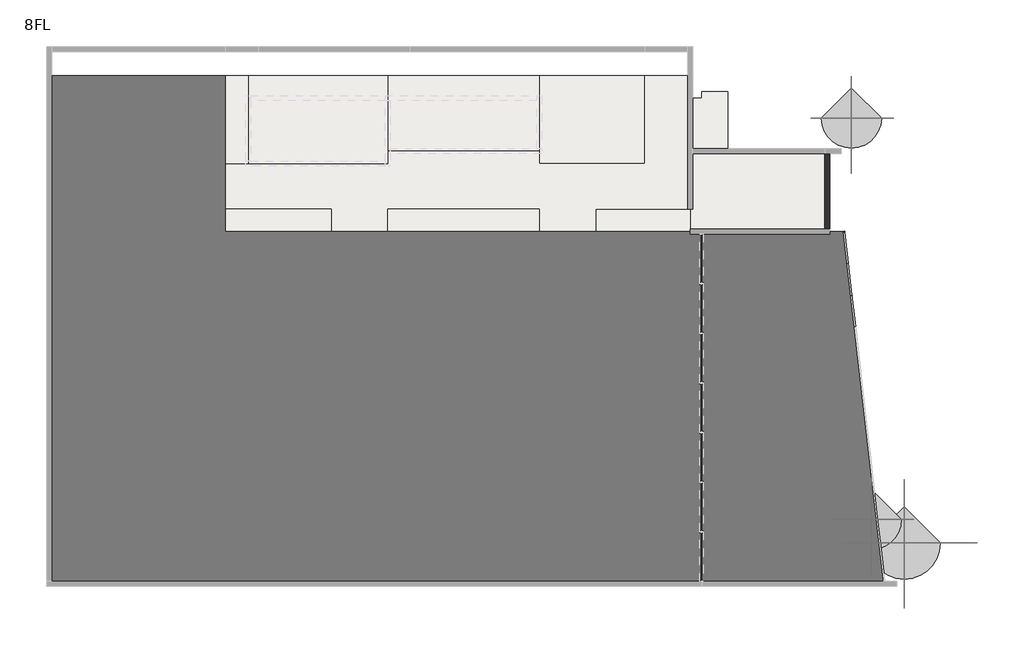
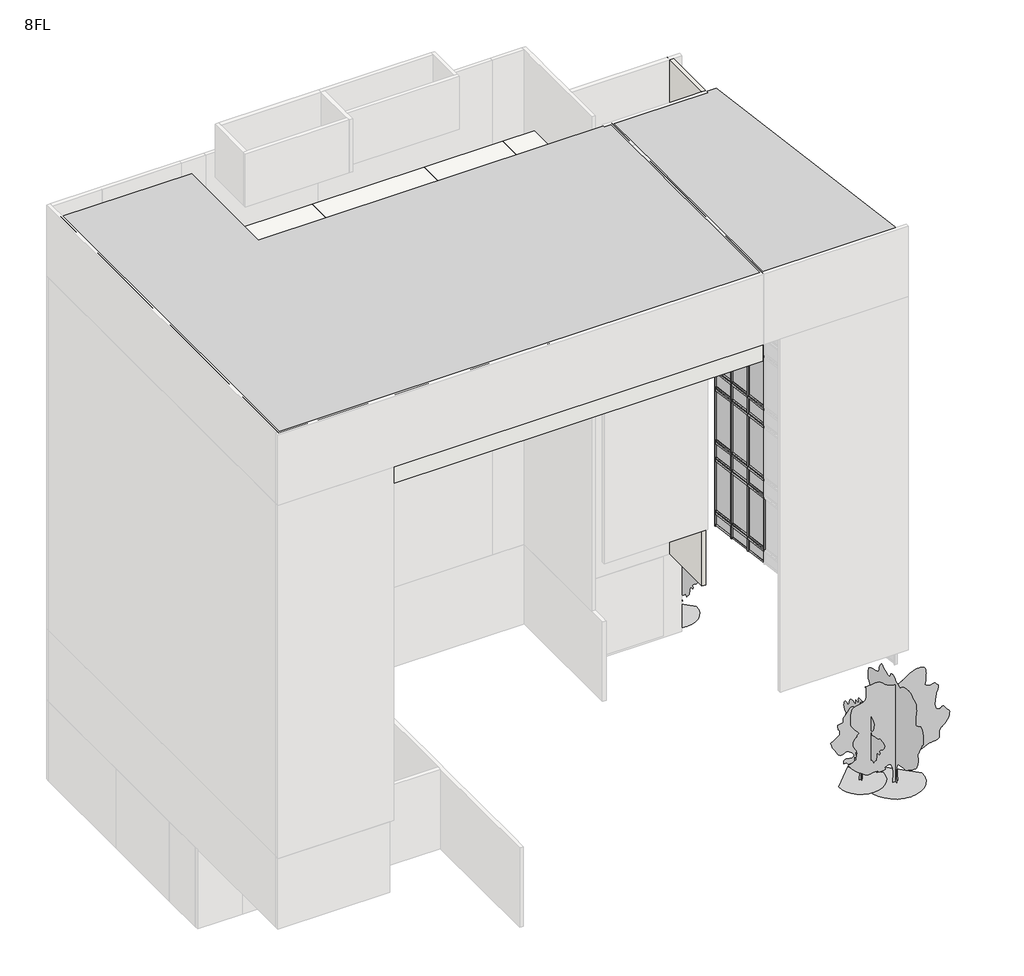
# One storey, part 4 of 4: 67 members, 33 plates, 11 slabs, 3 geographic elements, 2 proxies, 1 railing, 1 wall.
"""IFC4 building model written with IfcOpenShell, lengths in millimetres."""

from ifc_helpers import new_model, si_unit, frame, origin, place, context, project, spatial, polyline, outline, extrude, faceted_brep, transform, mapped, element, save
from components import geographic_element_be49fed4, geographic_element_7aaeb41d, member_100x150_b54df6fd, member_100x150_5209bdcb, member_25x150_6388a252, member_25x150_bae5e528, member_25x150_87a4a7cc, member_25x150_c2142158, member_25x150_ebaab477, member_70x150_d0359e29, member_70x150_07c10103, member_70x150_ebb47e88, member_70x150_8bab1bdf, plate_bf09a1c6, plate_b29589f3, plate_e86bd2e7, plate_a40ee780, plate_90bea699, plate_46ec0250, plate_257e4bb4, plate_b89069fe, railing_1a1cc68e

model = new_model("IFC4")

# Units and contexts
model_context = context("Model", 3, world=origin())
ifc_project = project(units=[si_unit("LENGTHUNIT", "METRE", prefix="MILLI")], contexts=[model_context])

# Site, building, storey
site = spatial("IfcSite", under=ifc_project)
building = spatial("IfcBuilding", under=site)
storey = spatial("IfcBuildingStorey", under=building, Name="8FL", Elevation=28600.0)

# Proxies
placement = place(None, origin())
element("IfcBuildingElementProxy", 1, Name="i_事務所1 : i_事務所1", ObjectType="i_事務所1 : i_事務所1", at=placement, inside=storey, context=model_context, shape_type="SweptSolid", body=[
    extrude(outline(polyline([(-21845.9784025, 16649.6868987), (-21845.9784025, 10449.6868987), (-2945.9784025, 10449.6868987), (-2945.9784025, -3550.3131013), (-28845.9784025, -3550.3131013), (-28845.9784025, 16649.6868987), (-21845.9784025, 16649.6868987)])), frame((0.0, 0.0, 28600.0), z_axis=(0.0, 0.0, 1.0), x_axis=(1.0, 0.0, 0.0)), (0.0, 0.0, 1.0), 4000.0),
])
element("IfcBuildingElementProxy", 2, Name="d_デザイン : d_デザイン", ObjectType="d_デザイン : d_デザイン", at=placement, inside=storey, context=model_context, shape_type="SweptSolid", body=[
    extrude(outline(polyline([(2661.9595949, 10449.6868987), (4261.9595949, -3550.3131013), (-2945.9784025, -3550.3131013), (-2945.9784025, 10449.6868987), (2661.9595949, 10449.6868987)])), frame((0.0, 0.0, 28600.0), z_axis=(0.0, 0.0, 1.0), x_axis=(1.0, 0.0, 0.0)), (0.0, 0.0, 1.0), 4000.0),
])

# Geographic elements
geographic_element_shape = geographic_element_be49fed4(model_context)
element("IfcGeographicElement", 3, ObjectType="RPC 木 - 落葉樹 : アメリカブナ - 6.0 メートル", at=placement, inside=storey, context=model_context, shape_type="MappedRepresentation", body=[
    mapped(geographic_element_shape, transform((5100.9931259, -1922.4754119, -0.1595272), x_axis=(1.0, 0.0, 0.0), y_axis=(0.0, 1.0, 0.0), z_axis=(0.0, 0.0, 1.0))),
])
geographic_element_2_shape = geographic_element_7aaeb41d(model_context)
element("IfcGeographicElement", 4, ObjectType="RPC 木 - 落葉樹 : 桜 - 4.5 メートル", at=placement, inside=storey, context=model_context, shape_type="MappedRepresentation", body=[
    mapped(geographic_element_2_shape, transform((3798.9740663, -983.205348, -0.1595272), x_axis=(1.0, 0.0, 0.0), y_axis=(0.0, 1.0, 0.0), z_axis=(0.0, 0.0, 1.0))),
])
element("IfcGeographicElement", 5, ObjectType="RPC 木 - 落葉樹 : 桜 - 4.5 メートル", at=placement, inside=storey, context=model_context, shape_type="MappedRepresentation", body=[
    mapped(geographic_element_2_shape, transform((3006.6058487, 14963.9022489, -0.1595272), x_axis=(1.0, 0.0, 0.0), y_axis=(0.0, 1.0, 0.0), z_axis=(0.0, 0.0, 1.0))),
])

# Members
member_100x150_shape = member_100x150_b54df6fd(model_context)
element("IfcMember", 6, ObjectType="長方形のマリオン : 100x150", at=placement, inside=storey, context=model_context, shape_type="MappedRepresentation", body=[
    mapped(member_100x150_shape, transform((2950.7907637, 7922.4141714, 24600.0), x_axis=(0.0, 0.0, 1.0), y_axis=(0.9935326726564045, 0.11354659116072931, 0.0), z_axis=(-0.11354659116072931, 0.9935326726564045, 0.0))),
])
element("IfcMember", 7, ObjectType="長方形のマリオン : 100x150", at=placement, inside=storey, context=model_context, shape_type="MappedRepresentation", body=[
    mapped(member_100x150_shape, transform((2806.3751793, 9186.0505351, 24600.0), x_axis=(0.0, 0.0, 1.0), y_axis=(0.9935326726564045, 0.11354659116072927, 0.0), z_axis=(-0.11354659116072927, 0.9935326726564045, 0.0))),
])
element("IfcMember", 8, ObjectType="長方形のマリオン : 100x150", at=placement, inside=storey, context=model_context, shape_type="MappedRepresentation", body=[
    mapped(member_100x150_shape, transform((2950.7907637, 7922.4141714, 23600.0), x_axis=(0.0, 0.0, 1.0), y_axis=(0.9935326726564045, 0.11354659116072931, 0.0), z_axis=(-0.11354659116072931, 0.9935326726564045, 0.0))),
])
element("IfcMember", 9, ObjectType="長方形のマリオン : 100x150", at=placement, inside=storey, context=model_context, shape_type="MappedRepresentation", body=[
    mapped(member_100x150_shape, transform((2806.3751793, 9186.0505351, 23600.0), x_axis=(0.0, 0.0, 1.0), y_axis=(0.9935326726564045, 0.11354659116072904, 0.0), z_axis=(-0.11354659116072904, 0.9935326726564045, 0.0))),
])
element("IfcMember", 10, ObjectType="長方形のマリオン : 100x150", at=placement, inside=storey, context=model_context, shape_type="MappedRepresentation", body=[
    mapped(member_100x150_shape, transform((2950.7907637, 7922.4141714, 20600.0), x_axis=(0.0, 0.0, 1.0), y_axis=(0.9935326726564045, 0.11354659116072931, 0.0), z_axis=(-0.11354659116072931, 0.9935326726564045, 0.0))),
])
element("IfcMember", 11, ObjectType="長方形のマリオン : 100x150", at=placement, inside=storey, context=model_context, shape_type="MappedRepresentation", body=[
    mapped(member_100x150_shape, transform((2806.3751793, 9186.0505351, 20600.0), x_axis=(0.0, 0.0, 1.0), y_axis=(0.9935326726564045, 0.11354659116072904, 0.0), z_axis=(-0.11354659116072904, 0.9935326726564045, 0.0))),
])
element("IfcMember", 12, ObjectType="長方形のマリオン : 100x150", at=placement, inside=storey, context=model_context, shape_type="MappedRepresentation", body=[
    mapped(member_100x150_shape, transform((2950.7907637, 7922.4141714, 19600.0), x_axis=(0.0, 0.0, 1.0), y_axis=(0.9935326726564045, 0.11354659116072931, 0.0), z_axis=(-0.11354659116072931, 0.9935326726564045, 0.0))),
])
element("IfcMember", 13, ObjectType="長方形のマリオン : 100x150", at=placement, inside=storey, context=model_context, shape_type="MappedRepresentation", body=[
    mapped(member_100x150_shape, transform((2806.3751793, 9186.0505351, 19600.0), x_axis=(0.0, 0.0, 1.0), y_axis=(0.9935326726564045, 0.11354659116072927, 0.0), z_axis=(-0.11354659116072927, 0.9935326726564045, 0.0))),
])
element("IfcMember", 14, ObjectType="長方形のマリオン : 100x150", at=placement, inside=storey, context=model_context, shape_type="MappedRepresentation", body=[
    mapped(member_100x150_shape, transform((2950.7907637, 7922.4141714, 16600.0), x_axis=(0.0, 0.0, 1.0), y_axis=(0.9935326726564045, 0.11354659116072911, 0.0), z_axis=(-0.11354659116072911, 0.9935326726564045, 0.0))),
])
element("IfcMember", 15, ObjectType="長方形のマリオン : 100x150", at=placement, inside=storey, context=model_context, shape_type="MappedRepresentation", body=[
    mapped(member_100x150_shape, transform((2806.3751793, 9186.0505351, 16600.0), x_axis=(0.0, 0.0, 1.0), y_axis=(0.9935326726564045, 0.11354659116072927, 0.0), z_axis=(-0.11354659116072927, 0.9935326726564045, 0.0))),
])
element("IfcMember", 16, ObjectType="長方形のマリオン : 100x150", at=placement, inside=storey, context=model_context, shape_type="MappedRepresentation", body=[
    mapped(member_100x150_shape, transform((2950.7907637, 7922.4141714, 15600.0), x_axis=(0.0, 0.0, 1.0), y_axis=(0.9935326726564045, 0.11354659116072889, 0.0), z_axis=(-0.11354659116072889, 0.9935326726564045, 0.0))),
])
element("IfcMember", 17, ObjectType="長方形のマリオン : 100x150", at=placement, inside=storey, context=model_context, shape_type="MappedRepresentation", body=[
    mapped(member_100x150_shape, transform((2806.3751793, 9186.0505351, 15600.0), x_axis=(0.0, 0.0, 1.0), y_axis=(0.9935326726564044, 0.11354659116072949, 0.0), z_axis=(-0.11354659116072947, 0.9935326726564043, 0.0))),
])
element("IfcMember", 18, ObjectType="長方形のマリオン : 100x150", at=placement, inside=storey, context=model_context, shape_type="MappedRepresentation", body=[
    mapped(member_100x150_shape, transform((2950.7907637, 7922.4141714, 12600.0), x_axis=(0.0, 0.0, 1.0), y_axis=(0.9935326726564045, 0.11354659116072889, 0.0), z_axis=(-0.11354659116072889, 0.9935326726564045, 0.0))),
])
element("IfcMember", 19, ObjectType="長方形のマリオン : 100x150", at=placement, inside=storey, context=model_context, shape_type="MappedRepresentation", body=[
    mapped(member_100x150_shape, transform((2806.3751793, 9186.0505351, 12600.0), x_axis=(0.0, 0.0, 1.0), y_axis=(0.9935326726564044, 0.11354659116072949, 0.0), z_axis=(-0.11354659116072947, 0.9935326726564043, 0.0))),
])
element("IfcMember", 20, ObjectType="長方形のマリオン : 100x150", at=placement, inside=storey, context=model_context, shape_type="MappedRepresentation", body=[
    mapped(member_100x150_shape, transform((2950.7907637, 7922.4141714, 11600.0), x_axis=(0.0, 0.0, 1.0), y_axis=(0.9935326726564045, 0.11354659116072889, 0.0), z_axis=(-0.11354659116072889, 0.9935326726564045, 0.0))),
])
element("IfcMember", 21, ObjectType="長方形のマリオン : 100x150", at=placement, inside=storey, context=model_context, shape_type="MappedRepresentation", body=[
    mapped(member_100x150_shape, transform((2806.3751793, 9186.0505351, 11600.0), x_axis=(0.0, 0.0, 1.0), y_axis=(0.9935326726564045, 0.11354659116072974, 0.0), z_axis=(-0.11354659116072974, 0.9935326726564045, 0.0))),
])
element("IfcMember", 22, ObjectType="長方形のマリオン : 100x150", at=placement, inside=storey, context=model_context, shape_type="MappedRepresentation", body=[
    mapped(member_100x150_shape, transform((2950.7907637, 7922.4141714, 27600.0), x_axis=(0.0, 0.0, 1.0), y_axis=(0.9935326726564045, 0.11354659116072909, 0.0), z_axis=(-0.11354659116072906, 0.9935326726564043, 0.0))),
])
element("IfcMember", 23, ObjectType="長方形のマリオン : 100x150", at=placement, inside=storey, context=model_context, shape_type="MappedRepresentation", body=[
    mapped(member_100x150_shape, transform((2806.3751793, 9186.0505351, 27600.0), x_axis=(0.0, 0.0, 1.0), y_axis=(0.9935326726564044, 0.11354659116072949, 0.0), z_axis=(-0.11354659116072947, 0.9935326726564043, 0.0))),
])
element("IfcMember", 24, ObjectType="長方形のマリオン : 100x150", at=placement, inside=storey, context=model_context, shape_type="MappedRepresentation", body=[
    mapped(member_100x150_shape, transform((2950.7907637, 7922.4141714, 8600.0), x_axis=(0.0, 0.0, 1.0), y_axis=(0.9935326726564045, 0.11354659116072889, 0.0), z_axis=(-0.11354659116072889, 0.9935326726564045, 0.0))),
])
element("IfcMember", 25, ObjectType="長方形のマリオン : 100x150", at=placement, inside=storey, context=model_context, shape_type="MappedRepresentation", body=[
    mapped(member_100x150_shape, transform((2806.3751793, 9186.0505351, 8600.0), x_axis=(0.0, 0.0, 1.0), y_axis=(0.9935326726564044, 0.11354659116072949, 0.0), z_axis=(-0.11354659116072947, 0.9935326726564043, 0.0))),
])
member_100x150_2_shape = member_100x150_5209bdcb(model_context)
element("IfcMember", 26, ObjectType="長方形のマリオン : 100x150", at=placement, inside=storey, context=model_context, shape_type="MappedRepresentation", body=[
    mapped(member_100x150_2_shape, transform((2664.7982596, 10424.8485819, 24600.0), x_axis=(0.0, 0.0, 1.0), y_axis=(0.9935326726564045, 0.11354659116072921, 0.0), z_axis=(-0.11354659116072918, 0.9935326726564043, 0.0))),
])
element("IfcMember", 27, ObjectType="長方形のマリオン : 100x150", at=placement, inside=storey, context=model_context, shape_type="MappedRepresentation", body=[
    mapped(member_100x150_2_shape, transform((2664.7982596, 10424.8485819, 23600.0), x_axis=(0.0, 0.0, 1.0), y_axis=(0.9935326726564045, 0.11354659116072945, 0.0), z_axis=(-0.11354659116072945, 0.9935326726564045, 0.0))),
])
element("IfcMember", 28, ObjectType="長方形のマリオン : 100x150", at=placement, inside=storey, context=model_context, shape_type="MappedRepresentation", body=[
    mapped(member_100x150_2_shape, transform((2664.7982596, 10424.8485819, 20600.0), x_axis=(0.0, 0.0, 1.0), y_axis=(0.9935326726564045, 0.11354659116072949, 0.0), z_axis=(-0.11354659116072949, 0.9935326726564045, 0.0))),
])
element("IfcMember", 29, ObjectType="長方形のマリオン : 100x150", at=placement, inside=storey, context=model_context, shape_type="MappedRepresentation", body=[
    mapped(member_100x150_2_shape, transform((2664.7982596, 10424.8485819, 19600.0), x_axis=(0.0, 0.0, 1.0), y_axis=(0.9935326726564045, 0.11354659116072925, 0.0), z_axis=(-0.11354659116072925, 0.9935326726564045, 0.0))),
])
element("IfcMember", 30, ObjectType="長方形のマリオン : 100x150", at=placement, inside=storey, context=model_context, shape_type="MappedRepresentation", body=[
    mapped(member_100x150_2_shape, transform((2664.7982596, 10424.8485819, 16600.0), x_axis=(0.0, 0.0, 1.0), y_axis=(0.9935326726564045, 0.11354659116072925, 0.0), z_axis=(-0.11354659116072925, 0.9935326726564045, 0.0))),
])
element("IfcMember", 31, ObjectType="長方形のマリオン : 100x150", at=placement, inside=storey, context=model_context, shape_type="MappedRepresentation", body=[
    mapped(member_100x150_2_shape, transform((2664.7982596, 10424.8485819, 15600.0), x_axis=(0.0, 0.0, 1.0), y_axis=(0.9935326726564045, 0.11354659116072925, 0.0), z_axis=(-0.11354659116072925, 0.9935326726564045, 0.0))),
])
element("IfcMember", 32, ObjectType="長方形のマリオン : 100x150", at=placement, inside=storey, context=model_context, shape_type="MappedRepresentation", body=[
    mapped(member_100x150_2_shape, transform((2664.7982596, 10424.8485819, 12600.0), x_axis=(0.0, 0.0, 1.0), y_axis=(0.9935326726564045, 0.11354659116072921, 0.0), z_axis=(-0.11354659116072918, 0.9935326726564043, 0.0))),
])
element("IfcMember", 33, ObjectType="長方形のマリオン : 100x150", at=placement, inside=storey, context=model_context, shape_type="MappedRepresentation", body=[
    mapped(member_100x150_2_shape, transform((2664.7982596, 10424.8485819, 11600.0), x_axis=(0.0, 0.0, 1.0), y_axis=(0.9935326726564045, 0.11354659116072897, 0.0), z_axis=(-0.11354659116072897, 0.9935326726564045, 0.0))),
])
element("IfcMember", 34, ObjectType="長方形のマリオン : 100x150", at=placement, inside=storey, context=model_context, shape_type="MappedRepresentation", body=[
    mapped(member_100x150_2_shape, transform((2664.7982596, 10424.8485819, 27600.0), x_axis=(0.0, 0.0, 1.0), y_axis=(0.9935326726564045, 0.11354659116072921, 0.0), z_axis=(-0.11354659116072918, 0.9935326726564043, 0.0))),
])
element("IfcMember", 35, ObjectType="長方形のマリオン : 100x150", at=placement, inside=storey, context=model_context, shape_type="MappedRepresentation", body=[
    mapped(member_100x150_2_shape, transform((2664.7982596, 10424.8485819, 8600.0), x_axis=(0.0, 0.0, 1.0), y_axis=(0.9935326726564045, 0.11354659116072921, 0.0), z_axis=(-0.11354659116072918, 0.9935326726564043, 0.0))),
])
member_25x150_shape = member_25x150_6388a252(model_context)
element("IfcMember", 36, ObjectType="長方形のマリオン : 25x150", at=placement, inside=storey, context=model_context, shape_type="MappedRepresentation", body=[
    mapped(member_25x150_shape, transform((2950.7907637, 7922.4141714, 28600.0), x_axis=(0.0, 0.0, 1.0), y_axis=(0.9935326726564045, 0.11354659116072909, 0.0), z_axis=(-0.11354659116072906, 0.9935326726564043, 0.0))),
])
element("IfcMember", 37, ObjectType="長方形のマリオン : 25x150", at=placement, inside=storey, context=model_context, shape_type="MappedRepresentation", body=[
    mapped(member_25x150_shape, transform((2806.3751793, 9186.0505351, 28600.0), x_axis=(0.0, 0.0, 1.0), y_axis=(0.9935326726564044, 0.11354659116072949, 0.0), z_axis=(-0.11354659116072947, 0.9935326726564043, 0.0))),
])
member_25x150_2_shape = member_25x150_bae5e528(model_context)
element("IfcMember", 38, ObjectType="長方形のマリオン : 25x150", at=placement, inside=storey, context=model_context, shape_type="MappedRepresentation", body=[
    mapped(member_25x150_2_shape, transform((2664.7982596, 10424.8485819, 28600.0), x_axis=(0.0, 0.0, 1.0), y_axis=(0.9935326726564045, 0.11354659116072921, 0.0), z_axis=(-0.11354659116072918, 0.9935326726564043, 0.0))),
])
member_25x150_3_shape = member_25x150_87a4a7cc(model_context)
element("IfcMember", 39, ObjectType="長方形のマリオン : 25x150", at=placement, inside=storey, context=model_context, shape_type="MappedRepresentation", body=[
    mapped(member_25x150_3_shape, transform((2661.9595949, 10449.6868987, 23600.0), x_axis=(-0.11354659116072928, 0.9935326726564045, 0.0), y_axis=(0.9935326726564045, 0.11354659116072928, 0.0), z_axis=(0.0, 0.0, -1.0))),
])
element("IfcMember", 40, ObjectType="長方形のマリオン : 25x150", at=placement, inside=storey, context=model_context, shape_type="MappedRepresentation", body=[
    mapped(member_25x150_3_shape, transform((2661.9595949, 10449.6868987, 19600.0), x_axis=(-0.11354659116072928, 0.9935326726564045, 0.0), y_axis=(0.9935326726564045, 0.11354659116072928, 0.0), z_axis=(0.0, 0.0, -1.0))),
])
element("IfcMember", 41, ObjectType="長方形のマリオン : 25x150", at=placement, inside=storey, context=model_context, shape_type="MappedRepresentation", body=[
    mapped(member_25x150_3_shape, transform((2661.9595949, 10449.6868987, 15600.0), x_axis=(-0.11354659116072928, 0.9935326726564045, 0.0), y_axis=(0.9935326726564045, 0.11354659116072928, 0.0), z_axis=(0.0, 0.0, -1.0))),
])
element("IfcMember", 42, ObjectType="長方形のマリオン : 25x150", at=placement, inside=storey, context=model_context, shape_type="MappedRepresentation", body=[
    mapped(member_25x150_3_shape, transform((2661.9595949, 10449.6868987, 11600.0), x_axis=(-0.11354659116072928, 0.9935326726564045, 0.0), y_axis=(0.9935326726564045, 0.11354659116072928, 0.0), z_axis=(0.0, 0.0, -1.0))),
])
member_25x150_4_shape = member_25x150_c2142158(model_context)
element("IfcMember", 43, ObjectType="長方形のマリオン : 25x150", at=placement, inside=storey, context=model_context, shape_type="MappedRepresentation", body=[
    mapped(member_25x150_4_shape, transform((2661.9595949, 10449.6868987, 24600.0), x_axis=(-0.11354659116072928, 0.9935326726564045, 0.0), y_axis=(0.9935326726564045, 0.11354659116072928, 0.0), z_axis=(0.0, 0.0, -1.0))),
])
element("IfcMember", 44, ObjectType="長方形のマリオン : 25x150", at=placement, inside=storey, context=model_context, shape_type="MappedRepresentation", body=[
    mapped(member_25x150_4_shape, transform((2661.9595949, 10449.6868987, 20600.0), x_axis=(-0.11354659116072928, 0.9935326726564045, 0.0), y_axis=(0.9935326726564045, 0.11354659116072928, 0.0), z_axis=(0.0, 0.0, -1.0))),
])
element("IfcMember", 45, ObjectType="長方形のマリオン : 25x150", at=placement, inside=storey, context=model_context, shape_type="MappedRepresentation", body=[
    mapped(member_25x150_4_shape, transform((2661.9595949, 10449.6868987, 16600.0), x_axis=(-0.11354659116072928, 0.9935326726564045, 0.0), y_axis=(0.9935326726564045, 0.11354659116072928, 0.0), z_axis=(0.0, 0.0, -1.0))),
])
element("IfcMember", 46, ObjectType="長方形のマリオン : 25x150", at=placement, inside=storey, context=model_context, shape_type="MappedRepresentation", body=[
    mapped(member_25x150_4_shape, transform((2661.9595949, 10449.6868987, 12600.0), x_axis=(-0.11354659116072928, 0.9935326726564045, 0.0), y_axis=(0.9935326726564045, 0.11354659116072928, 0.0), z_axis=(0.0, 0.0, -1.0))),
])
element("IfcMember", 47, ObjectType="長方形のマリオン : 25x150", at=placement, inside=storey, context=model_context, shape_type="MappedRepresentation", body=[
    mapped(member_25x150_4_shape, transform((2661.9595949, 10449.6868987, 8600.0), x_axis=(-0.11354659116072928, 0.9935326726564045, 0.0), y_axis=(0.9935326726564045, 0.11354659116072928, 0.0), z_axis=(0.0, 0.0, -1.0))),
])
member_25x150_5_shape = member_25x150_ebaab477(model_context)
element("IfcMember", 48, ObjectType="長方形のマリオン : 25x150", at=placement, inside=storey, context=model_context, shape_type="MappedRepresentation", body=[
    mapped(member_25x150_5_shape, transform((2661.9595949, 10449.6868987, 7850.0), x_axis=(-0.11354659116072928, 0.9935326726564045, 0.0), y_axis=(0.9935326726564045, 0.11354659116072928, 0.0), z_axis=(0.0, 0.0, -1.0))),
])
element("IfcMember", 49, ObjectType="長方形のマリオン : 25x150", at=placement, inside=storey, context=model_context, shape_type="MappedRepresentation", body=[
    mapped(member_25x150_3_shape, transform((2661.9595949, 10449.6868987, 27600.0), x_axis=(-0.11354659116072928, 0.9935326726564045, 0.0), y_axis=(0.9935326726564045, 0.11354659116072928, 0.0), z_axis=(0.0, 0.0, -1.0))),
])
member_70x150_shape = member_70x150_d0359e29(model_context)
element("IfcMember", 50, ObjectType="長方形のマリオン : 70x150", at=placement, inside=storey, context=model_context, shape_type="MappedRepresentation", body=[
    mapped(member_70x150_shape, transform((2950.7907637, 7922.4141714, 23650.0), x_axis=(-0.11354659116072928, 0.9935326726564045, 0.0), y_axis=(0.9935326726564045, 0.11354659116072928, 0.0), z_axis=(0.0, 0.0, -1.0))),
])
element("IfcMember", 51, ObjectType="長方形のマリオン : 70x150", at=placement, inside=storey, context=model_context, shape_type="MappedRepresentation", body=[
    mapped(member_70x150_shape, transform((2806.3751793, 9186.0505351, 23650.0), x_axis=(-0.11354659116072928, 0.9935326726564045, 0.0), y_axis=(0.9935326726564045, 0.11354659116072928, 0.0), z_axis=(0.0, 0.0, -1.0))),
])
element("IfcMember", 52, ObjectType="長方形のマリオン : 70x150", at=placement, inside=storey, context=model_context, shape_type="MappedRepresentation", body=[
    mapped(member_70x150_shape, transform((2950.7907637, 7922.4141714, 19650.0), x_axis=(-0.11354659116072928, 0.9935326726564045, 0.0), y_axis=(0.9935326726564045, 0.11354659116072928, 0.0), z_axis=(0.0, 0.0, -1.0))),
])
element("IfcMember", 53, ObjectType="長方形のマリオン : 70x150", at=placement, inside=storey, context=model_context, shape_type="MappedRepresentation", body=[
    mapped(member_70x150_shape, transform((2806.3751793, 9186.0505351, 19650.0), x_axis=(-0.11354659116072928, 0.9935326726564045, 0.0), y_axis=(0.9935326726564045, 0.11354659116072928, 0.0), z_axis=(0.0, 0.0, -1.0))),
])
element("IfcMember", 54, ObjectType="長方形のマリオン : 70x150", at=placement, inside=storey, context=model_context, shape_type="MappedRepresentation", body=[
    mapped(member_70x150_shape, transform((2950.7907637, 7922.4141714, 15650.0), x_axis=(-0.11354659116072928, 0.9935326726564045, 0.0), y_axis=(0.9935326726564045, 0.11354659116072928, 0.0), z_axis=(0.0, 0.0, -1.0))),
])
element("IfcMember", 55, ObjectType="長方形のマリオン : 70x150", at=placement, inside=storey, context=model_context, shape_type="MappedRepresentation", body=[
    mapped(member_70x150_shape, transform((2806.3751793, 9186.0505351, 15650.0), x_axis=(-0.11354659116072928, 0.9935326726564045, 0.0), y_axis=(0.9935326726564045, 0.11354659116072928, 0.0), z_axis=(0.0, 0.0, -1.0))),
])
element("IfcMember", 56, ObjectType="長方形のマリオン : 70x150", at=placement, inside=storey, context=model_context, shape_type="MappedRepresentation", body=[
    mapped(member_70x150_shape, transform((2950.7907637, 7922.4141714, 11650.0), x_axis=(-0.11354659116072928, 0.9935326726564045, 0.0), y_axis=(0.9935326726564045, 0.11354659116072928, 0.0), z_axis=(0.0, 0.0, -1.0))),
])
element("IfcMember", 57, ObjectType="長方形のマリオン : 70x150", at=placement, inside=storey, context=model_context, shape_type="MappedRepresentation", body=[
    mapped(member_70x150_shape, transform((2806.3751793, 9186.0505351, 11650.0), x_axis=(-0.11354659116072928, 0.9935326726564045, 0.0), y_axis=(0.9935326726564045, 0.11354659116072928, 0.0), z_axis=(0.0, 0.0, -1.0))),
])
member_70x150_2_shape = member_70x150_07c10103(model_context)
element("IfcMember", 58, ObjectType="長方形のマリオン : 70x150", at=placement, inside=storey, context=model_context, shape_type="MappedRepresentation", body=[
    mapped(member_70x150_2_shape, transform((2950.7907637, 7922.4141714, 24650.0), x_axis=(-0.11354659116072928, 0.9935326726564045, 0.0), y_axis=(0.9935326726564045, 0.11354659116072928, 0.0), z_axis=(0.0, 0.0, -1.0))),
])
element("IfcMember", 59, ObjectType="長方形のマリオン : 70x150", at=placement, inside=storey, context=model_context, shape_type="MappedRepresentation", body=[
    mapped(member_70x150_2_shape, transform((2806.3751793, 9186.0505351, 24650.0), x_axis=(-0.11354659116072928, 0.9935326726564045, 0.0), y_axis=(0.9935326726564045, 0.11354659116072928, 0.0), z_axis=(0.0, 0.0, -1.0))),
])
element("IfcMember", 60, ObjectType="長方形のマリオン : 70x150", at=placement, inside=storey, context=model_context, shape_type="MappedRepresentation", body=[
    mapped(member_70x150_2_shape, transform((2950.7907637, 7922.4141714, 20650.0), x_axis=(-0.11354659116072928, 0.9935326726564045, 0.0), y_axis=(0.9935326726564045, 0.11354659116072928, 0.0), z_axis=(0.0, 0.0, -1.0))),
])
element("IfcMember", 61, ObjectType="長方形のマリオン : 70x150", at=placement, inside=storey, context=model_context, shape_type="MappedRepresentation", body=[
    mapped(member_70x150_2_shape, transform((2806.3751793, 9186.0505351, 20650.0), x_axis=(-0.11354659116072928, 0.9935326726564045, 0.0), y_axis=(0.9935326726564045, 0.11354659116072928, 0.0), z_axis=(0.0, 0.0, -1.0))),
])
element("IfcMember", 62, ObjectType="長方形のマリオン : 70x150", at=placement, inside=storey, context=model_context, shape_type="MappedRepresentation", body=[
    mapped(member_70x150_2_shape, transform((2950.7907637, 7922.4141714, 16650.0), x_axis=(-0.11354659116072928, 0.9935326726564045, 0.0), y_axis=(0.9935326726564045, 0.11354659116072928, 0.0), z_axis=(0.0, 0.0, -1.0))),
])
element("IfcMember", 63, ObjectType="長方形のマリオン : 70x150", at=placement, inside=storey, context=model_context, shape_type="MappedRepresentation", body=[
    mapped(member_70x150_2_shape, transform((2806.3751793, 9186.0505351, 16650.0), x_axis=(-0.11354659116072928, 0.9935326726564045, 0.0), y_axis=(0.9935326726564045, 0.11354659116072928, 0.0), z_axis=(0.0, 0.0, -1.0))),
])
element("IfcMember", 64, ObjectType="長方形のマリオン : 70x150", at=placement, inside=storey, context=model_context, shape_type="MappedRepresentation", body=[
    mapped(member_70x150_2_shape, transform((2950.7907637, 7922.4141714, 12650.0), x_axis=(-0.11354659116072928, 0.9935326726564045, 0.0), y_axis=(0.9935326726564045, 0.11354659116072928, 0.0), z_axis=(0.0, 0.0, -1.0))),
])
element("IfcMember", 65, ObjectType="長方形のマリオン : 70x150", at=placement, inside=storey, context=model_context, shape_type="MappedRepresentation", body=[
    mapped(member_70x150_2_shape, transform((2806.3751793, 9186.0505351, 12650.0), x_axis=(-0.11354659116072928, 0.9935326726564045, 0.0), y_axis=(0.9935326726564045, 0.11354659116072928, 0.0), z_axis=(0.0, 0.0, -1.0))),
])
element("IfcMember", 66, ObjectType="長方形のマリオン : 70x150", at=placement, inside=storey, context=model_context, shape_type="MappedRepresentation", body=[
    mapped(member_70x150_2_shape, transform((3095.2063481, 6658.7778078, 8650.0), x_axis=(-0.11354659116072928, 0.9935326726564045, 0.0), y_axis=(0.9935326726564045, 0.11354659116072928, 0.0), z_axis=(0.0, 0.0, -1.0))),
])
element("IfcMember", 67, ObjectType="長方形のマリオン : 70x150", at=placement, inside=storey, context=model_context, shape_type="MappedRepresentation", body=[
    mapped(member_70x150_2_shape, transform((2950.7907637, 7922.4141714, 8650.0), x_axis=(-0.11354659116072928, 0.9935326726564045, 0.0), y_axis=(0.9935326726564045, 0.11354659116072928, 0.0), z_axis=(0.0, 0.0, -1.0))),
])
element("IfcMember", 68, ObjectType="長方形のマリオン : 70x150", at=placement, inside=storey, context=model_context, shape_type="MappedRepresentation", body=[
    mapped(member_70x150_2_shape, transform((2806.3751793, 9186.0505351, 8650.0), x_axis=(-0.11354659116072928, 0.9935326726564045, 0.0), y_axis=(0.9935326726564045, 0.11354659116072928, 0.0), z_axis=(0.0, 0.0, -1.0))),
])
member_70x150_3_shape = member_70x150_ebb47e88(model_context)
element("IfcMember", 69, ObjectType="長方形のマリオン : 70x150", at=placement, inside=storey, context=model_context, shape_type="MappedRepresentation", body=[
    mapped(member_70x150_3_shape, transform((2950.7907637, 7922.4141714, 7850.0), x_axis=(-0.11354659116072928, 0.9935326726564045, 0.0), y_axis=(0.9935326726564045, 0.11354659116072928, 0.0), z_axis=(0.0, 0.0, -1.0))),
])
element("IfcMember", 70, ObjectType="長方形のマリオン : 70x150", at=placement, inside=storey, context=model_context, shape_type="MappedRepresentation", body=[
    mapped(member_70x150_3_shape, transform((2806.3751793, 9186.0505351, 7850.0), x_axis=(-0.11354659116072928, 0.9935326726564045, 0.0), y_axis=(0.9935326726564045, 0.11354659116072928, 0.0), z_axis=(0.0, 0.0, -1.0))),
])
member_70x150_4_shape = member_70x150_8bab1bdf(model_context)
element("IfcMember", 71, ObjectType="長方形のマリオン : 70x150", at=placement, inside=storey, context=model_context, shape_type="MappedRepresentation", body=[
    mapped(member_70x150_4_shape, transform((2950.7907637, 7922.4141714, 27650.0), x_axis=(-0.11354659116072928, 0.9935326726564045, 0.0), y_axis=(0.9935326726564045, 0.11354659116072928, 0.0), z_axis=(0.0, 0.0, -1.0))),
])
element("IfcMember", 72, ObjectType="長方形のマリオン : 70x150", at=placement, inside=storey, context=model_context, shape_type="MappedRepresentation", body=[
    mapped(member_70x150_4_shape, transform((2806.3751793, 9186.0505351, 27650.0), x_axis=(-0.11354659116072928, 0.9935326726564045, 0.0), y_axis=(0.9935326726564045, 0.11354659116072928, 0.0), z_axis=(0.0, 0.0, -1.0))),
])

# Plates
plate_shape = plate_bf09a1c6(model_context)
element("IfcPlate", 73, ObjectType="r パネル FIX 下框付 : 框 H100", at=placement, inside=storey, context=model_context, shape_type="MappedRepresentation", body=[
    mapped(plate_shape, transform((2733.5996541, 9822.8363802, 23650.0), x_axis=(-0.11354659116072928, 0.9935326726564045, 0.0), y_axis=(-0.9935326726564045, -0.11354659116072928, 0.0), z_axis=(0.0, 0.0, 1.0))),
])
element("IfcPlate", 74, ObjectType="r パネル FIX 下框付 : 框 H100", at=placement, inside=storey, context=model_context, shape_type="MappedRepresentation", body=[
    mapped(plate_shape, transform((2733.5996541, 9822.8363802, 19650.0), x_axis=(-0.11354659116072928, 0.9935326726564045, 0.0), y_axis=(-0.9935326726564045, -0.11354659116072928, 0.0), z_axis=(0.0, 0.0, 1.0))),
])
element("IfcPlate", 75, ObjectType="r パネル FIX 下框付 : 框 H100", at=placement, inside=storey, context=model_context, shape_type="MappedRepresentation", body=[
    mapped(plate_shape, transform((2733.5996541, 9822.8363802, 15650.0), x_axis=(-0.11354659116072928, 0.9935326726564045, 0.0), y_axis=(-0.9935326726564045, -0.11354659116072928, 0.0), z_axis=(0.0, 0.0, 1.0))),
])
element("IfcPlate", 76, ObjectType="r パネル FIX 下框付 : 框 H100", at=placement, inside=storey, context=model_context, shape_type="MappedRepresentation", body=[
    mapped(plate_shape, transform((2733.5996541, 9822.8363802, 11650.0), x_axis=(-0.11354659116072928, 0.9935326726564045, 0.0), y_axis=(-0.9935326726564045, -0.11354659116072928, 0.0), z_axis=(0.0, 0.0, 1.0))),
])
plate_2_shape = plate_b29589f3(model_context)
element("IfcPlate", 77, ObjectType="r パネル FIX 下框付 : 框 H100", at=placement, inside=storey, context=model_context, shape_type="MappedRepresentation", body=[
    mapped(plate_2_shape, transform((3022.9985559, 7290.5959896, 23650.0), x_axis=(-0.11354659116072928, 0.9935326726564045, 0.0), y_axis=(-0.9935326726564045, -0.11354659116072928, 0.0), z_axis=(0.0, 0.0, 1.0))),
])
element("IfcPlate", 78, ObjectType="r パネル FIX 下框付 : 框 H100", at=placement, inside=storey, context=model_context, shape_type="MappedRepresentation", body=[
    mapped(plate_2_shape, transform((2878.5829715, 8554.2323532, 23650.0), x_axis=(-0.11354659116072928, 0.9935326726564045, 0.0), y_axis=(-0.9935326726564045, -0.11354659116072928, 0.0), z_axis=(0.0, 0.0, 1.0))),
])
element("IfcPlate", 79, ObjectType="r パネル FIX 下框付 : 框 H100", at=placement, inside=storey, context=model_context, shape_type="MappedRepresentation", body=[
    mapped(plate_2_shape, transform((3022.9985559, 7290.5959896, 19650.0), x_axis=(-0.11354659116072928, 0.9935326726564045, 0.0), y_axis=(-0.9935326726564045, -0.11354659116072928, 0.0), z_axis=(0.0, 0.0, 1.0))),
])
element("IfcPlate", 80, ObjectType="r パネル FIX 下框付 : 框 H100", at=placement, inside=storey, context=model_context, shape_type="MappedRepresentation", body=[
    mapped(plate_2_shape, transform((2878.5829715, 8554.2323532, 19650.0), x_axis=(-0.11354659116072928, 0.9935326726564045, 0.0), y_axis=(-0.9935326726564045, -0.11354659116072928, 0.0), z_axis=(0.0, 0.0, 1.0))),
])
element("IfcPlate", 81, ObjectType="r パネル FIX 下框付 : 框 H100", at=placement, inside=storey, context=model_context, shape_type="MappedRepresentation", body=[
    mapped(plate_2_shape, transform((3022.9985559, 7290.5959896, 15650.0), x_axis=(-0.11354659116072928, 0.9935326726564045, 0.0), y_axis=(-0.9935326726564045, -0.11354659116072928, 0.0), z_axis=(0.0, 0.0, 1.0))),
])
element("IfcPlate", 82, ObjectType="r パネル FIX 下框付 : 框 H100", at=placement, inside=storey, context=model_context, shape_type="MappedRepresentation", body=[
    mapped(plate_2_shape, transform((2878.5829715, 8554.2323532, 15650.0), x_axis=(-0.11354659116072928, 0.9935326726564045, 0.0), y_axis=(-0.9935326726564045, -0.11354659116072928, 0.0), z_axis=(0.0, 0.0, 1.0))),
])
element("IfcPlate", 83, ObjectType="r パネル FIX 下框付 : 框 H100", at=placement, inside=storey, context=model_context, shape_type="MappedRepresentation", body=[
    mapped(plate_2_shape, transform((3022.9985559, 7290.5959896, 11650.0), x_axis=(-0.11354659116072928, 0.9935326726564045, 0.0), y_axis=(-0.9935326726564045, -0.11354659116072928, 0.0), z_axis=(0.0, 0.0, 1.0))),
])
element("IfcPlate", 84, ObjectType="r パネル FIX 下框付 : 框 H100", at=placement, inside=storey, context=model_context, shape_type="MappedRepresentation", body=[
    mapped(plate_2_shape, transform((2878.5829715, 8554.2323532, 11650.0), x_axis=(-0.11354659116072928, 0.9935326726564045, 0.0), y_axis=(-0.9935326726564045, -0.11354659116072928, 0.0), z_axis=(0.0, 0.0, 1.0))),
])
plate_3_shape = plate_e86bd2e7(model_context)
element("IfcPlate", 85, ObjectType="r パネル FIX 下框付 : 框 H100", at=placement, inside=storey, context=model_context, shape_type="MappedRepresentation", body=[
    mapped(plate_3_shape, transform((2733.5996541, 9822.8363802, 24650.0), x_axis=(-0.11354659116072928, 0.9935326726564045, 0.0), y_axis=(-0.9935326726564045, -0.11354659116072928, 0.0), z_axis=(0.0, 0.0, 1.0))),
])
element("IfcPlate", 86, ObjectType="r パネル FIX 下框付 : 框 H100", at=placement, inside=storey, context=model_context, shape_type="MappedRepresentation", body=[
    mapped(plate_3_shape, transform((2733.5996541, 9822.8363802, 20650.0), x_axis=(-0.11354659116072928, 0.9935326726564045, 0.0), y_axis=(-0.9935326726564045, -0.11354659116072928, 0.0), z_axis=(0.0, 0.0, 1.0))),
])
element("IfcPlate", 87, ObjectType="r パネル FIX 下框付 : 框 H100", at=placement, inside=storey, context=model_context, shape_type="MappedRepresentation", body=[
    mapped(plate_3_shape, transform((2733.5996541, 9822.8363802, 16650.0), x_axis=(-0.11354659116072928, 0.9935326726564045, 0.0), y_axis=(-0.9935326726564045, -0.11354659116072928, 0.0), z_axis=(0.0, 0.0, 1.0))),
])
element("IfcPlate", 88, ObjectType="r パネル FIX 下框付 : 框 H100", at=placement, inside=storey, context=model_context, shape_type="MappedRepresentation", body=[
    mapped(plate_3_shape, transform((2733.5996541, 9822.8363802, 12650.0), x_axis=(-0.11354659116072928, 0.9935326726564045, 0.0), y_axis=(-0.9935326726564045, -0.11354659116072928, 0.0), z_axis=(0.0, 0.0, 1.0))),
])
element("IfcPlate", 89, ObjectType="r パネル FIX 下框付 : 框 H100", at=placement, inside=storey, context=model_context, shape_type="MappedRepresentation", body=[
    mapped(plate_3_shape, transform((2733.5996541, 9822.8363802, 8650.0), x_axis=(-0.11354659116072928, 0.9935326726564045, 0.0), y_axis=(-0.9935326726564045, -0.11354659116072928, 0.0), z_axis=(0.0, 0.0, 1.0))),
])
plate_4_shape = plate_a40ee780(model_context)
element("IfcPlate", 90, ObjectType="r パネル FIX 下框付 : 框 H100", at=placement, inside=storey, context=model_context, shape_type="MappedRepresentation", body=[
    mapped(plate_4_shape, transform((3022.9985559, 7290.5959896, 24650.0), x_axis=(-0.11354659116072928, 0.9935326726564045, 0.0), y_axis=(-0.9935326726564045, -0.11354659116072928, 0.0), z_axis=(0.0, 0.0, 1.0))),
])
element("IfcPlate", 91, ObjectType="r パネル FIX 下框付 : 框 H100", at=placement, inside=storey, context=model_context, shape_type="MappedRepresentation", body=[
    mapped(plate_4_shape, transform((2878.5829715, 8554.2323532, 24650.0), x_axis=(-0.11354659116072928, 0.9935326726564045, 0.0), y_axis=(-0.9935326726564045, -0.11354659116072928, 0.0), z_axis=(0.0, 0.0, 1.0))),
])
element("IfcPlate", 92, ObjectType="r パネル FIX 下框付 : 框 H100", at=placement, inside=storey, context=model_context, shape_type="MappedRepresentation", body=[
    mapped(plate_4_shape, transform((3022.9985559, 7290.5959896, 20650.0), x_axis=(-0.11354659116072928, 0.9935326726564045, 0.0), y_axis=(-0.9935326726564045, -0.11354659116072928, 0.0), z_axis=(0.0, 0.0, 1.0))),
])
element("IfcPlate", 93, ObjectType="r パネル FIX 下框付 : 框 H100", at=placement, inside=storey, context=model_context, shape_type="MappedRepresentation", body=[
    mapped(plate_4_shape, transform((2878.5829715, 8554.2323532, 20650.0), x_axis=(-0.11354659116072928, 0.9935326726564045, 0.0), y_axis=(-0.9935326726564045, -0.11354659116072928, 0.0), z_axis=(0.0, 0.0, 1.0))),
])
element("IfcPlate", 94, ObjectType="r パネル FIX 下框付 : 框 H100", at=placement, inside=storey, context=model_context, shape_type="MappedRepresentation", body=[
    mapped(plate_4_shape, transform((3022.9985559, 7290.5959896, 16650.0), x_axis=(-0.11354659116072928, 0.9935326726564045, 0.0), y_axis=(-0.9935326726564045, -0.11354659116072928, 0.0), z_axis=(0.0, 0.0, 1.0))),
])
element("IfcPlate", 95, ObjectType="r パネル FIX 下框付 : 框 H100", at=placement, inside=storey, context=model_context, shape_type="MappedRepresentation", body=[
    mapped(plate_4_shape, transform((2878.5829715, 8554.2323532, 16650.0), x_axis=(-0.11354659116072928, 0.9935326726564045, 0.0), y_axis=(-0.9935326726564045, -0.11354659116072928, 0.0), z_axis=(0.0, 0.0, 1.0))),
])
element("IfcPlate", 96, ObjectType="r パネル FIX 下框付 : 框 H100", at=placement, inside=storey, context=model_context, shape_type="MappedRepresentation", body=[
    mapped(plate_4_shape, transform((3022.9985559, 7290.5959896, 12650.0), x_axis=(-0.11354659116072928, 0.9935326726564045, 0.0), y_axis=(-0.9935326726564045, -0.11354659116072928, 0.0), z_axis=(0.0, 0.0, 1.0))),
])
element("IfcPlate", 97, ObjectType="r パネル FIX 下框付 : 框 H100", at=placement, inside=storey, context=model_context, shape_type="MappedRepresentation", body=[
    mapped(plate_4_shape, transform((2878.5829715, 8554.2323532, 12650.0), x_axis=(-0.11354659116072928, 0.9935326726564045, 0.0), y_axis=(-0.9935326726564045, -0.11354659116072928, 0.0), z_axis=(0.0, 0.0, 1.0))),
])
element("IfcPlate", 98, ObjectType="r パネル FIX 下框付 : 框 H100", at=placement, inside=storey, context=model_context, shape_type="MappedRepresentation", body=[
    mapped(plate_4_shape, transform((3022.9985559, 7290.5959896, 8650.0), x_axis=(-0.11354659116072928, 0.9935326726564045, 0.0), y_axis=(-0.9935326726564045, -0.11354659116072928, 0.0), z_axis=(0.0, 0.0, 1.0))),
])
element("IfcPlate", 99, ObjectType="r パネル FIX 下框付 : 框 H100", at=placement, inside=storey, context=model_context, shape_type="MappedRepresentation", body=[
    mapped(plate_4_shape, transform((2878.5829715, 8554.2323532, 8650.0), x_axis=(-0.11354659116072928, 0.9935326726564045, 0.0), y_axis=(-0.9935326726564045, -0.11354659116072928, 0.0), z_axis=(0.0, 0.0, 1.0))),
])
plate_5_shape = plate_90bea699(model_context)
element("IfcPlate", 100, ObjectType="r パネル FIX 下框付 : 框 H100", at=placement, inside=storey, context=model_context, shape_type="MappedRepresentation", body=[
    mapped(plate_5_shape, transform((2733.5996541, 9822.8363802, 7850.0), x_axis=(-0.11354659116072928, 0.9935326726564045, 0.0), y_axis=(-0.9935326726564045, -0.11354659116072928, 0.0), z_axis=(0.0, 0.0, 1.0))),
])
plate_6_shape = plate_46ec0250(model_context)
element("IfcPlate", 101, ObjectType="r パネル FIX 下框付 : 框 H100", at=placement, inside=storey, context=model_context, shape_type="MappedRepresentation", body=[
    mapped(plate_6_shape, transform((3022.9985559, 7290.5959896, 7850.0), x_axis=(-0.11354659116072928, 0.9935326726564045, 0.0), y_axis=(-0.9935326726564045, -0.11354659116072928, 0.0), z_axis=(0.0, 0.0, 1.0))),
])
element("IfcPlate", 102, ObjectType="r パネル FIX 下框付 : 框 H100", at=placement, inside=storey, context=model_context, shape_type="MappedRepresentation", body=[
    mapped(plate_6_shape, transform((2878.5829715, 8554.2323532, 7850.0), x_axis=(-0.11354659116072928, 0.9935326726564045, 0.0), y_axis=(-0.9935326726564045, -0.11354659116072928, 0.0), z_axis=(0.0, 0.0, 1.0))),
])
plate_7_shape = plate_257e4bb4(model_context)
element("IfcPlate", 103, ObjectType="r パネル FIX 下框付 : 框 H100", at=placement, inside=storey, context=model_context, shape_type="MappedRepresentation", body=[
    mapped(plate_7_shape, transform((2733.5996541, 9822.8363802, 27650.0), x_axis=(-0.11354659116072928, 0.9935326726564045, 0.0), y_axis=(-0.9935326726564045, -0.11354659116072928, 0.0), z_axis=(0.0, 0.0, 1.0))),
])
plate_8_shape = plate_b89069fe(model_context)
element("IfcPlate", 104, ObjectType="r パネル FIX 下框付 : 框 H100", at=placement, inside=storey, context=model_context, shape_type="MappedRepresentation", body=[
    mapped(plate_8_shape, transform((3022.9985559, 7290.5959896, 27650.0), x_axis=(-0.11354659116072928, 0.9935326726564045, 0.0), y_axis=(-0.9935326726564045, -0.11354659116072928, 0.0), z_axis=(0.0, 0.0, 1.0))),
])
element("IfcPlate", 105, ObjectType="r パネル FIX 下框付 : 框 H100", at=placement, inside=storey, context=model_context, shape_type="MappedRepresentation", body=[
    mapped(plate_8_shape, transform((2878.5829715, 8554.2323532, 27650.0), x_axis=(-0.11354659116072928, 0.9935326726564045, 0.0), y_axis=(-0.9935326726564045, -0.11354659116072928, 0.0), z_axis=(0.0, 0.0, 1.0))),
])

# Railing
railing_shape = railing_1a1cc68e(model_context)
element("IfcRailing", 106, ObjectType="r パイプ H900", at=placement, inside=storey, context=model_context, shape_type="MappedRepresentation", body=[
    mapped(railing_shape, transform((0.0, 0.0, 0.0), x_axis=(1.0, 0.0, 0.0), y_axis=(0.0, 1.0, 0.0), z_axis=(0.0, 0.0, 1.0))),
])

# Slabs
element("IfcSlab", 107, ObjectType="企画1000", at=placement, inside=storey, context=model_context, shape_type="SweptSolid", body=[
    extrude(outline(polyline([(-17645.9784025, 11349.6868987), (-17645.9784025, 10449.6868987), (-21845.9784025, 10449.6868987), (-21845.9784025, 11349.6868987), (-17645.9784025, 11349.6868987)])), frame((0.0, 0.0, 27600.0), z_axis=(0.0, 0.0, 1.0), x_axis=(1.0, 0.0, 0.0)), (0.0, 0.0, 1.0), 1000.0),
])
element("IfcSlab", 108, ObjectType="企画1000", at=placement, inside=storey, context=model_context, shape_type="SweptSolid", body=[
    extrude(outline(polyline([(-20945.9784025, 16649.6868987), (-20945.9784025, 13149.6868987), (-21845.9784025, 13149.6868987), (-21845.9784025, 16649.6868987), (-20945.9784025, 16649.6868987)])), frame((0.0, 0.0, 27600.0), z_axis=(0.0, 0.0, 1.0), x_axis=(1.0, 0.0, 0.0)), (0.0, 0.0, 1.0), 1000.0),
])
element("IfcSlab", 109, ObjectType="企画1000", at=placement, inside=storey, context=model_context, shape_type="SweptSolid", body=[
    extrude(outline(polyline([(-9395.9784025, 16649.6868987), (-9395.9784025, 13649.6868987), (-15395.9784025, 13649.6868987), (-15395.9784025, 16649.6868987), (-9395.9784025, 16649.6868987)])), frame((0.0, 0.0, 27600.0), z_axis=(0.0, 0.0, 1.0), x_axis=(1.0, 0.0, 0.0)), (0.0, 0.0, 1.0), 1000.0),
])
element("IfcSlab", 110, ObjectType="企画1000", at=placement, inside=storey, context=model_context, shape_type="SweptSolid", body=[
    extrude(outline(polyline([(-9395.9784025, 11349.6868987), (-9395.9784025, 10449.6868987), (-15395.9784025, 10449.6868987), (-15395.9784025, 11349.6868987), (-9395.9784025, 11349.6868987)])), frame((0.0, 0.0, 27600.0), z_axis=(0.0, 0.0, 1.0), x_axis=(1.0, 0.0, 0.0)), (0.0, 0.0, 1.0), 1000.0),
])
element("IfcSlab", 111, ObjectType="企画1000", at=placement, inside=storey, context=model_context, shape_type="SweptSolid", body=[
    extrude(outline(polyline([(2054.0215975, 13649.6868987), (2054.0215975, 10449.6868987), (-3395.9784025, 10449.6868987), (-3395.9784025, 13649.6868987), (2054.0215975, 13649.6868987)])), frame((0.0, 0.0, 27600.0), z_axis=(0.0, 0.0, 1.0), x_axis=(1.0, 0.0, 0.0)), (0.0, 0.0, 1.0), 1000.0),
])
element("IfcSlab", 112, ObjectType="企画1000", at=placement, inside=storey, context=model_context, shape_type="SweptSolid", body=[
    extrude(outline(polyline([(-15395.9784025, 13149.6868987), (-15395.9784025, 13649.6868987), (-9395.9784025, 13649.6868987), (-9395.9784025, 13149.6868987), (-5195.9784025, 13149.6868987), (-5195.9784025, 16649.6868987), (-3395.9784025, 16649.6868987), (-3395.9784025, 11349.6868987), (-7145.9784025, 11349.6868987), (-7145.9784025, 10449.6868987), (-9395.9784025, 10449.6868987), (-9395.9784025, 11349.6868987), (-15395.9784025, 11349.6868987), (-15395.9784025, 10449.6868987), (-17645.9784025, 10449.6868987), (-17645.9784025, 11349.6868987), (-21845.9784025, 11349.6868987), (-21845.9784025, 13149.6868987), (-15395.9784025, 13149.6868987)])), frame((0.0, 0.0, 27600.0), z_axis=(0.0, 0.0, 1.0), x_axis=(1.0, 0.0, 0.0)), (0.0, 0.0, 1.0), 1000.0),
])
element("IfcSlab", 113, ObjectType="企画1000", at=placement, inside=storey, context=model_context, shape_type="SweptSolid", body=[
    extrude(outline(polyline([(-15395.9784025, 16649.6868987), (-15395.9784025, 13149.6868987), (-20945.9784025, 13149.6868987), (-20945.9784025, 16649.6868987), (-15395.9784025, 16649.6868987)])), frame((0.0, 0.0, 27600.0), z_axis=(0.0, 0.0, 1.0), x_axis=(1.0, 0.0, 0.0)), (0.0, 0.0, 1.0), 1000.0),
])
element("IfcSlab", 114, ObjectType="企画1000", at=placement, inside=storey, context=model_context, shape_type="SweptSolid", body=[
    extrude(outline(polyline([(-21845.9784025, 16649.6868987), (-21845.9784025, 10449.6868987), (-2945.9784025, 10449.6868987), (-2945.9784025, -3550.3131013), (-28845.9784025, -3550.3131013), (-28845.9784025, 16649.6868987), (-21845.9784025, 16649.6868987)])), frame((0.0, 0.0, 27600.0), z_axis=(0.0, 0.0, 1.0), x_axis=(1.0, 0.0, 0.0)), (0.0, 0.0, 1.0), 1000.0),
])
element("IfcSlab", 115, ObjectType="企画1000", at=placement, inside=storey, context=model_context, shape_type="SweptSolid", body=[
    extrude(outline(polyline([(-5195.9784025, 16649.6868987), (-5195.9784025, 13149.6868987), (-9395.9784025, 13149.6868987), (-9395.9784025, 16649.6868987), (-5195.9784025, 16649.6868987)])), frame((0.0, 0.0, 27600.0), z_axis=(0.0, 0.0, 1.0), x_axis=(1.0, 0.0, 0.0)), (0.0, 0.0, 1.0), 1000.0),
])
element("IfcSlab", 116, ObjectType="企画1000", at=placement, inside=storey, context=model_context, shape_type="SweptSolid", body=[
    extrude(outline(polyline([(-3395.9784025, 11349.6868987), (-3395.9784025, 10449.6868987), (-7145.9784025, 10449.6868987), (-7145.9784025, 11349.6868987), (-3395.9784025, 11349.6868987)])), frame((0.0, 0.0, 27600.0), z_axis=(0.0, 0.0, 1.0), x_axis=(1.0, 0.0, 0.0)), (0.0, 0.0, 1.0), 1000.0),
])
element("IfcSlab", 117, ObjectType="RC250", at=placement, inside=storey, context=model_context, shape_type="SweptSolid", body=[
    extrude(outline(polyline([(-2945.9784025, 15999.6868987), (-1895.9784025, 15999.6868987), (-1895.9784025, 13749.6868987), (-3295.9784025, 13749.6868987), (-3295.9784025, 15749.6868987), (-2945.9784025, 15749.6868987), (-2945.9784025, 15999.6868987)])), frame((0.0, 0.0, 28350.0), z_axis=(0.0, 0.0, 1.0), x_axis=(1.0, 0.0, 0.0)), (0.0, 0.0, 1.0), 250.0),
])

# Wall
element("IfcWall", 118, ObjectType="標準200", at=placement, inside=storey, context=model_context, shape_type="Brep", body=[
    faceted_brep([(2154.0215975, 10549.6868987, 4600.0), (2154.0215975, 13749.6868987, 4600.0), (2154.0215975, 13749.6868987, 32600.0), (2154.0215975, 10549.6868987, 32600.0), (2154.0215975, 10549.6868987, 7850.0), (1954.0215975, 10549.6868987, 4600.0), (1954.0215975, 10549.6868987, 7600.0), (1954.0215975, 10549.6868987, 7850.0), (1954.0215975, 10549.6868987, 32600.0), (1954.0215975, 11349.6868987, 32600.0), (1954.0215975, 13549.6868987, 32600.0), (1954.0215975, 13749.6868987, 32600.0), (1954.0215975, 13749.6868987, 4600.0), (1954.0215975, 13549.6868987, 4600.0), (1954.0215975, 11349.6868987, 4600.0), (2054.0215975, 10549.6868987, 4600.0)], [[[0, 1, 2, 3, 4]], [[5, 6, 7, 8, 9, 10, 11, 12, 13, 14]], [[1, 0, 15, 5, 14, 13, 12]], [[3, 2, 11, 10, 9, 8]], [[0, 4, 3, 8, 7, 6, 5, 15]], [[2, 1, 12, 11]]]),
])

save(model, "model.ifc")
